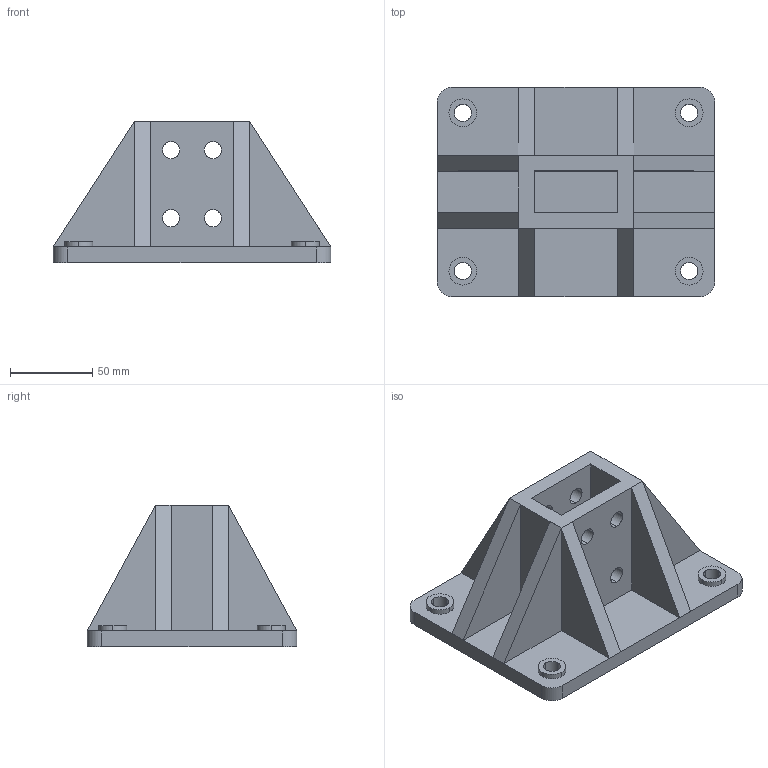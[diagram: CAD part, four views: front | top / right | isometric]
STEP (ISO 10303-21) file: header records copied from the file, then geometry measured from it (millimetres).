
FILE_DESCRIPTION(('TurboCAD Mac Pro'),'Build 980');
FILE_NAME('F20PU-5905.stp',' ',(''),(''),'ACIS Interop','IMSI','TurboCAD Mac Pro BY IMSI, INCORPORATED');
FILE_SCHEMA(('automotive_design'));
Length unit declared in the file: inch
Products named in the file (4): 1; 2; 3; 4
Bounding box: 168.28 x 127 x 85.72 mm (x, y, z)
Volume: 464750.7 mm3; surface area: 115812.3 mm2
Topology: 4 solids, 4 shells, 119 faces, 308 edges, 204 vertices
Faces by surface type: bspline 68, plane 51
Entity records: 5051 total; most frequent: CARTESIAN_POINT 1519, ORIENTED_EDGE 616, EDGE_CURVE 308, DIRECTION 282, VERTEX_POINT 204, LINE 172, VECTOR 172, EDGE_LOOP 150
